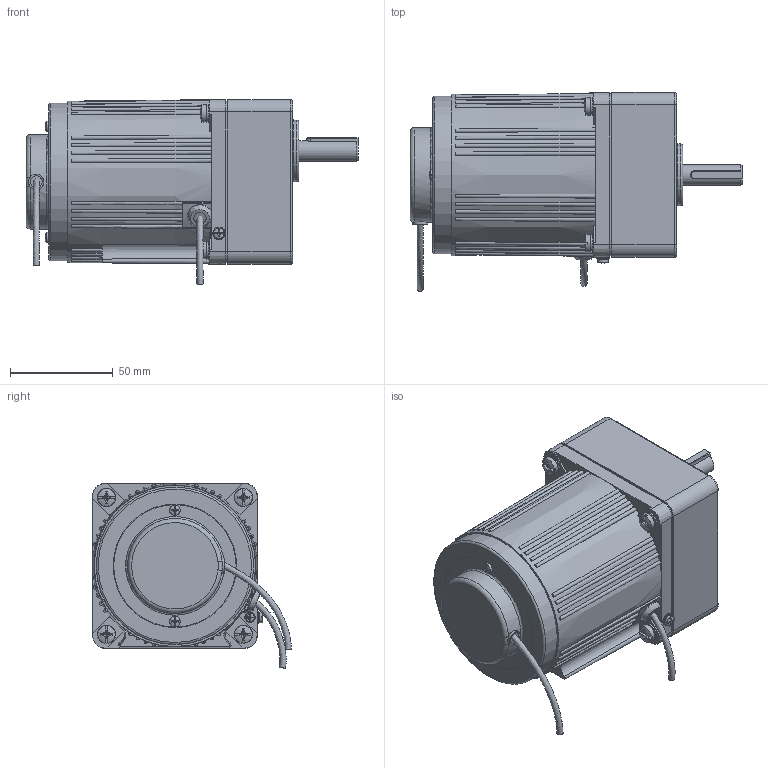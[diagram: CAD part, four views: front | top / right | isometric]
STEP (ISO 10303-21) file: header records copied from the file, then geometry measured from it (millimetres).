
FILE_DESCRIPTION(/* description */ (''),/* implementation_level */ '2;1');
FILE_NAME(/* name */ '4RK25-40CC·R-4GN3-20K-C·10L.stp',/* time_stamp */ '2024-10-22T14:57:46+08:00',/* author */ (''),/* organization */ (''),/* preprocessor_version */ 'ST-DEVELOPER v18.102',/* originating_system */ 'SIEMENS PLM Software NX 2027',/* authorisation */ '');
FILE_SCHEMA (('AP203_CONFIGURATION_CONTROLLED_3D_DESIGN_OF_MECHANICAL_PARTS_AND_ASSEMBLIES_MIM_LF { 1 0 10303 403 2 1 2}'));
Length unit declared in the file: millimetre
Products named in the file (1): A0_objects
Bounding box: 161.3 x 96.6 x 89.85 mm (x, y, z)
Volume: 658376.3 mm3; surface area: 79301.5 mm2
Topology: 9 solids, 9 shells, 834 faces, 2194 edges, 1432 vertices
Faces by surface type: bspline 331, plane 278, cylinder 100, cone 56, revolution 30, torus 21, sphere 18
Full cylindrical faces by diameter (mm): 2.6 x1, 2.7 x1, 3.2 x1, 4 x1, 4.2 x4, 4.4 x1, 4.6 x4, 5 x5, 5.1 x3, 5.3 x4, 5.8 x1, 6 x6, 6.5 x4, 7.4 x1, 8.2 x1, 8.5 x4, 9 x4, 10 x1, 10.5 x1, 19 x1, 26 x1, 30 x1, 46 x1, 56 x1, 59.5 x1, 60 x1, 67 x1, 75 x2, 76.5 x1, 77.5 x1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
Entity records: 34056 total; most frequent: CARTESIAN_POINT 16861, ORIENTED_EDGE 4016, DIRECTION 2382, EDGE_CURVE 2008, VERTEX_POINT 1359, B_SPLINE_CURVE_WITH_KNOTS 1120, EDGE_LOOP 1024, AXIS2_PLACEMENT_3D 964
